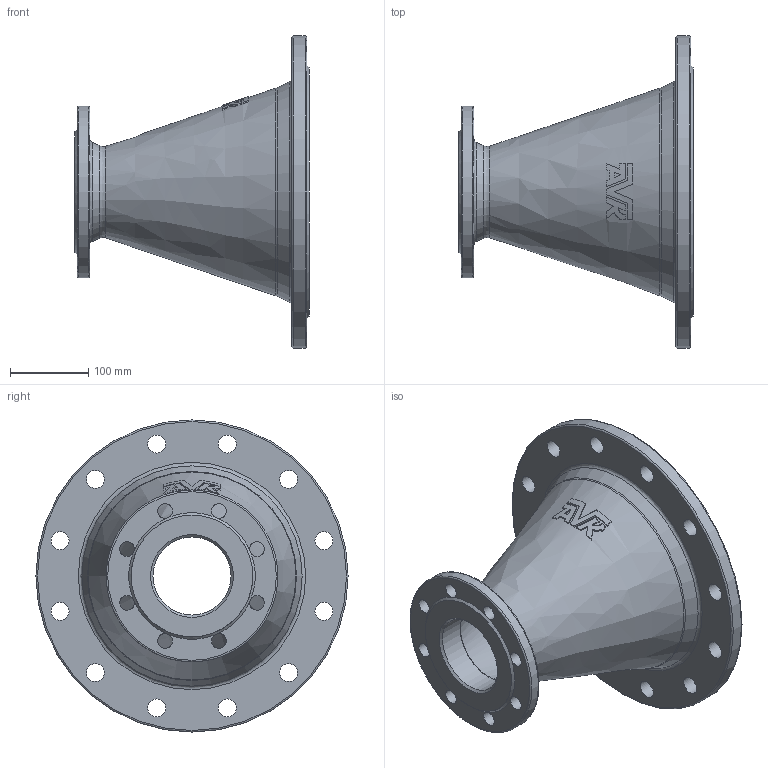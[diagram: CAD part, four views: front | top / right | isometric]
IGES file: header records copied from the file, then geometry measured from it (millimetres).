
Start section: SolidWorks IGES file using analytic representation for surfaces
Global section: file name: \\avksan2\techshare\PBM outline export from Enovia\O_712_2210_DN250_DN100_0X_REV01.igs; native system: SolidWorks 2022; preprocessor: SolidWorks 2022; author: pbm; date: 240808.075220; units: millimetre
Bounding box: 300 x 400 x 400 mm (x, y, z)
Surface area: 574313.7 mm2 (no closed solid volume)
Topology: 0 solids, 0 shells, 97 faces, 472 edges, 430 vertices
Faces by surface type: bspline 49, revolution 48
